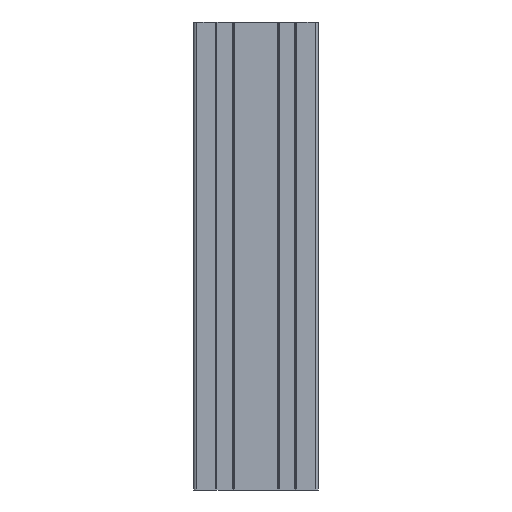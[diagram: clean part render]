
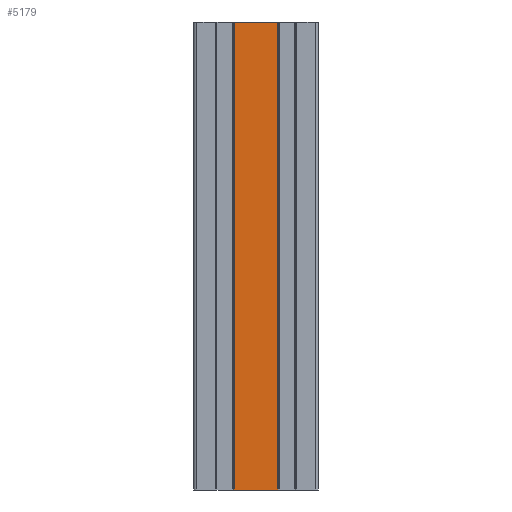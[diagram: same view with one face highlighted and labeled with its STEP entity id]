
A CAD part, front view. The second image highlights one B-rep face of the part: STEP entity #5179.
In plain terms, the highlighted planar face has unit normal (0, -1, 0).
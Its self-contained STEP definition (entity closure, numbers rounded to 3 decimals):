
#463=FACE_OUTER_BOUND('',#725,.T.);
#725=EDGE_LOOP('',(#3871,#3872,#3873,#3874));
#1155=LINE('',#8121,#1735);
#1156=LINE('',#8125,#1736);
#1157=LINE('',#8127,#1737);
#1158=LINE('',#8128,#1738);
#1735=VECTOR('',#6593,10.);
#1736=VECTOR('',#6598,10.);
#1737=VECTOR('',#6599,10.);
#1738=VECTOR('',#6600,10.);
#2295=VERTEX_POINT('',#8118);
#2296=VERTEX_POINT('',#8120);
#2297=VERTEX_POINT('',#8124);
#2298=VERTEX_POINT('',#8126);
#2952=EDGE_CURVE('',#2296,#2295,#1155,.T.);
#2954=EDGE_CURVE('',#2295,#2297,#1156,.T.);
#2955=EDGE_CURVE('',#2298,#2297,#1157,.T.);
#2956=EDGE_CURVE('',#2298,#2296,#1158,.T.);
#3871=ORIENTED_EDGE('',*,*,#2954,.T.);
#3872=ORIENTED_EDGE('',*,*,#2955,.F.);
#3873=ORIENTED_EDGE('',*,*,#2956,.T.);
#3874=ORIENTED_EDGE('',*,*,#2952,.T.);
#4958=PLANE('',#5579);
#5179=ADVANCED_FACE('',(#463),#4958,.T.);
#5579=AXIS2_PLACEMENT_3D('',#8123,#6596,#6597);
#6593=DIRECTION('',(0.,0.,1.));
#6596=DIRECTION('center_axis',(0.,-1.,0.));
#6597=DIRECTION('ref_axis',(0.,0.,-1.));
#6598=DIRECTION('',(-1.,0.,0.));
#6599=DIRECTION('',(0.,0.,1.));
#6600=DIRECTION('',(1.,0.,0.));
#8118=CARTESIAN_POINT('',(14.,-40.,100.));
#8120=CARTESIAN_POINT('',(14.,-40.,-200.));
#8121=CARTESIAN_POINT('',(14.,-40.,-200.));
#8123=CARTESIAN_POINT('Origin',(14.,-40.,-200.));
#8124=CARTESIAN_POINT('',(-14.,-40.,100.));
#8125=CARTESIAN_POINT('',(-14.,-40.,100.));
#8126=CARTESIAN_POINT('',(-14.,-40.,-200.));
#8127=CARTESIAN_POINT('',(-14.,-40.,-200.));
#8128=CARTESIAN_POINT('',(-14.,-40.,-200.));
